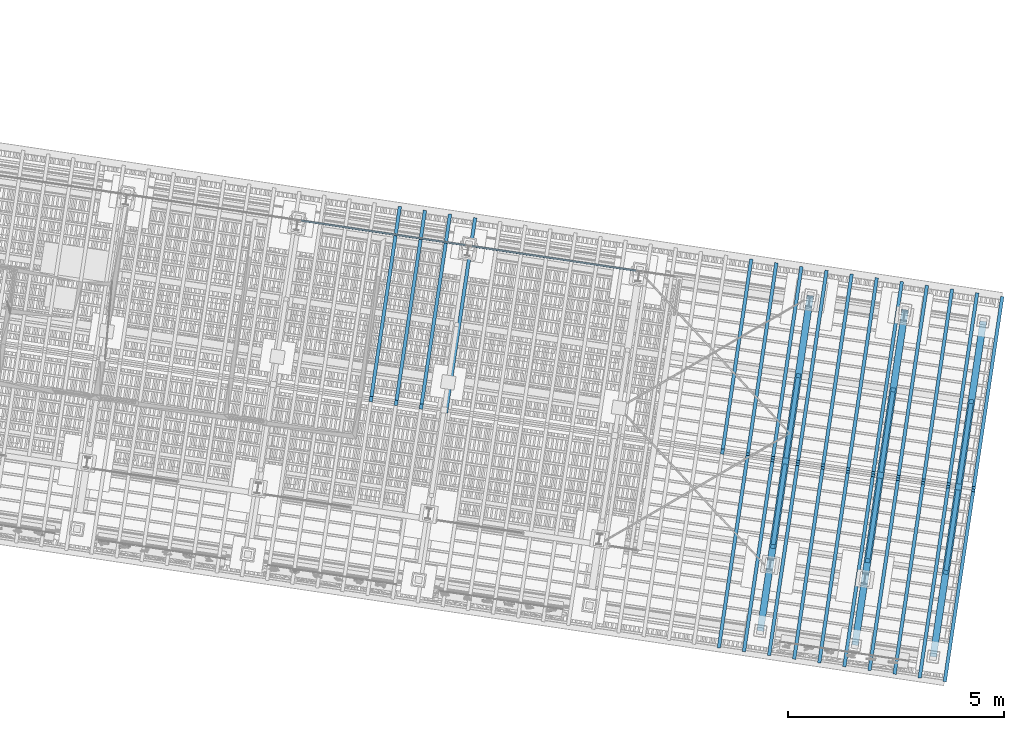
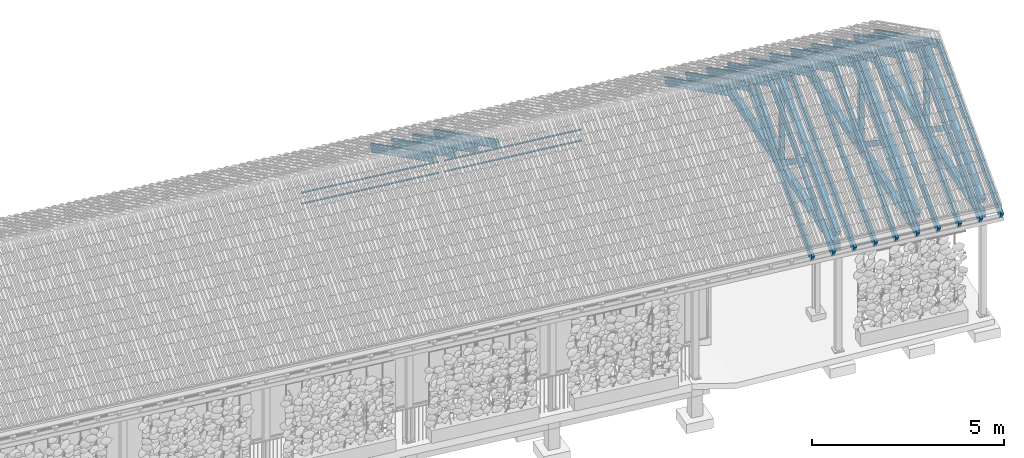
# One storey, part 104 of 131: 44 members, 3 beams, 1 element without a shape of its own.
"""IFC4 building model written with IfcOpenShell, lengths in metres."""

from ifc_helpers import new_model, si_unit, direction, frame, origin_with_axes, place, context, subcontext, project, spatial, rectangle, extrude, material, material_profile, profile_set, profile_usage, type_object, element, aggregate, save


model = new_model("IFC4")

# Units and contexts
model_context = context("Model", 3, precision=1e-05, world=origin_with_axes(), true_north=direction((0.0, 1.0)))
body_context = subcontext(model_context, "Body", "Model", "MODEL_VIEW")
ifc_project = project(units=[si_unit("AREAUNIT", "SQUARE_METRE"), si_unit("VOLUMEUNIT", "CUBIC_METRE"), si_unit("LENGTHUNIT", "METRE")], contexts=[model_context])

# Site, building, storey
site_placement = place(None, origin_with_axes())
site = spatial("IfcSite", under=ifc_project, at=site_placement, Name="Lares · Rua das Mercês · artigo 4771")
building_placement = place(site_placement, frame((15.0, 9.7, 14.65), z_axis=(0.0, 0.0, 1.0), x_axis=(0.989015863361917, -0.147809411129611, 0.0)))
building = spatial("IfcBuilding", under=site, at=building_placement, Name="Casa Sobreposta")
storey_placement = place(building_placement, origin_with_axes())
storey = spatial("IfcBuildingStorey", under=building, at=storey_placement, Name="00 · Habitação e estacionamento", Elevation=14.65)

# Members
ifc_material_1 = material(Name="Aço pintado / Stahl lackiert", Category="steel")
ifc_material_profile_1 = material_profile(ifc_material_1, rectangle(XDim=0.035, YDim=0.035))
ifc_profile_set_1 = profile_set([ifc_material_profile_1], Name="R0.035")
ifc_profile_usage_1 = profile_usage(ifc_profile_set_1)
member_type_1 = type_object("IfcMemberType", Name="R0.035 / steel", PredefinedType="NOTDEFINED", material=ifc_profile_set_1)
member_1_placement = place(storey_placement, frame((16.08, 6.4, 2.35), z_axis=(1.0, 0.0, 0.0), x_axis=(0.0, -1.0, 0.0)))
element("IfcMember", 1, at=member_1_placement, inside=storey, type_object=member_type_1, material=ifc_profile_usage_1, Name="Rasgo norte 5 · travessa", context=body_context, shape_type="SweptSolid", body=[
    extrude(rectangle(XDim=0.035, YDim=0.035), origin_with_axes(), (0.0, 0.0, 1.0), 3.84),
])
ifc_profile_usage_2 = profile_usage(ifc_profile_set_1)
member_2_placement = place(storey_placement, frame((16.08, 6.4, 2.7), z_axis=(1.0, 0.0, 0.0), x_axis=(0.0, -1.0, 0.0)))
element("IfcMember", 2, at=member_2_placement, inside=storey, type_object=member_type_1, material=ifc_profile_usage_2, Name="Rasgo norte 5 · travessa", context=body_context, shape_type="SweptSolid", body=[
    extrude(rectangle(XDim=0.035, YDim=0.035), origin_with_axes(), (0.0, 0.0, 1.0), 3.84),
])
ifc_profile_usage_3 = profile_usage(ifc_profile_set_1)
member_3_placement = place(storey_placement, frame((20.08, 6.4, 2.35), z_axis=(1.0, 0.0, 0.0), x_axis=(0.0, -1.0, 0.0)))
element("IfcMember", 3, at=member_3_placement, inside=storey, type_object=member_type_1, material=ifc_profile_usage_3, Name="Rasgo norte 6 · travessa", context=body_context, shape_type="SweptSolid", body=[
    extrude(rectangle(XDim=0.035, YDim=0.035), origin_with_axes(), (0.0, 0.0, 1.0), 3.84),
])
ifc_profile_usage_4 = profile_usage(ifc_profile_set_1)
member_4_placement = place(storey_placement, frame((20.08, 6.4, 2.7), z_axis=(1.0, 0.0, 0.0), x_axis=(0.0, -1.0, 0.0)))
element("IfcMember", 4, at=member_4_placement, inside=storey, type_object=member_type_1, material=ifc_profile_usage_4, Name="Rasgo norte 6 · travessa", context=body_context, shape_type="SweptSolid", body=[
    extrude(rectangle(XDim=0.035, YDim=0.035), origin_with_axes(), (0.0, 0.0, 1.0), 3.84),
])

# Roof, beams, members
ifc_material_2 = material(Name="Madeira / Bauholz", Category="wood")
roof_placement = place(storey_placement, origin_with_axes())
roof = element("IfcRoof", 5, at=roof_placement, inside=storey, material=ifc_material_2, Name="Cobertura de telha · duas águas 30 graus", PredefinedType="GABLE_ROOF")
ifc_material_profile_2 = material_profile(ifc_material_2, rectangle(XDim=0.16, YDim=0.24))
ifc_profile_set_2 = profile_set([ifc_material_profile_2], Name="TIMBER0.160x0.240")
ifc_profile_usage_5 = profile_usage(ifc_profile_set_2)
beam_type = type_object("IfcBeamType", Name="TIMBER0.160x0.240 / timber", PredefinedType="NOTDEFINED", material=ifc_profile_set_2)
beam_1_placement = place(roof_placement, frame((28.0, -1.43, 3.02), z_axis=(0.0, 1.0, 0.0), x_axis=(1.0, 0.0, 0.0)))
beam_1 = element("IfcBeam", 6, at=beam_1_placement, type_object=beam_type, material=ifc_profile_usage_5, Name="Tesoura · tirante inferior", context=body_context, shape_type="SweptSolid", body=[
    extrude(rectangle(XDim=0.16, YDim=0.24), origin_with_axes(), (0.0, 0.0, 1.0), 7.86),
])
ifc_profile_usage_6 = profile_usage(ifc_profile_set_2)
beam_2_placement = place(roof_placement, frame((30.22, -1.43, 3.02), z_axis=(0.0, 1.0, 0.0), x_axis=(1.0, 0.0, 0.0)))
beam_2 = element("IfcBeam", 7, at=beam_2_placement, type_object=beam_type, material=ifc_profile_usage_6, Name="Tesoura · tirante inferior", context=body_context, shape_type="SweptSolid", body=[
    extrude(rectangle(XDim=0.16, YDim=0.24), origin_with_axes(), (0.0, 0.0, 1.0), 7.86),
])
ifc_profile_usage_7 = profile_usage(ifc_profile_set_2)
beam_3_placement = place(roof_placement, frame((32.05, -1.43, 3.02), z_axis=(0.0, 1.0, 0.0), x_axis=(1.0, 0.0, 0.0)))
beam_3 = element("IfcBeam", 8, at=beam_3_placement, type_object=beam_type, material=ifc_profile_usage_7, Name="Tesoura · tirante inferior", context=body_context, shape_type="SweptSolid", body=[
    extrude(rectangle(XDim=0.16, YDim=0.24), origin_with_axes(), (0.0, 0.0, 1.0), 7.86),
])
ifc_material_profile_3 = material_profile(ifc_material_2, rectangle(XDim=0.16, YDim=0.24))
ifc_profile_set_3 = profile_set([ifc_material_profile_3], Name="TIMBER0.160x0.240")
ifc_profile_usage_8 = profile_usage(ifc_profile_set_3)
member_type_2 = type_object("IfcMemberType", Name="TIMBER0.160x0.240 / timber", PredefinedType="NOTDEFINED", material=ifc_profile_set_3)
member_5_placement = place(roof_placement, frame((28.0, -1.43, 3.44635462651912), z_axis=(0.0, 0.866025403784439, 0.5), x_axis=(1.0, 0.0, 0.0)))
member_5 = element("IfcMember", 9, at=member_5_placement, type_object=member_type_2, material=ifc_profile_usage_8, Name="Tesoura · perna", context=body_context, shape_type="SweptSolid", body=[
    extrude(rectangle(XDim=0.16, YDim=0.24), origin_with_axes(), (0.0, 0.0, 1.0), 4.59570814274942),
])
ifc_profile_usage_9 = profile_usage(ifc_profile_set_3)
member_6_placement = place(roof_placement, frame((28.0, 2.55, 5.74420869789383), z_axis=(0.0, 0.866025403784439, -0.5), x_axis=(1.0, 0.0, 0.0)))
member_6 = element("IfcMember", 10, at=member_6_placement, type_object=member_type_2, material=ifc_profile_usage_9, Name="Tesoura · perna", context=body_context, shape_type="SweptSolid", body=[
    extrude(rectangle(XDim=0.16, YDim=0.24), origin_with_axes(), (0.0, 0.0, 1.0), 4.4802380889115),
])
ifc_profile_usage_10 = profile_usage(ifc_profile_set_3)
member_7_placement = place(roof_placement, frame((30.22, -1.43, 3.44635462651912), z_axis=(0.0, 0.866025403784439, 0.5), x_axis=(1.0, 0.0, 0.0)))
member_7 = element("IfcMember", 11, at=member_7_placement, type_object=member_type_2, material=ifc_profile_usage_10, Name="Tesoura · perna", context=body_context, shape_type="SweptSolid", body=[
    extrude(rectangle(XDim=0.16, YDim=0.24), origin_with_axes(), (0.0, 0.0, 1.0), 4.59570814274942),
])
ifc_profile_usage_11 = profile_usage(ifc_profile_set_3)
member_8_placement = place(roof_placement, frame((30.22, 2.55, 5.74420869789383), z_axis=(0.0, 0.866025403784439, -0.5), x_axis=(1.0, 0.0, 0.0)))
member_8 = element("IfcMember", 12, at=member_8_placement, type_object=member_type_2, material=ifc_profile_usage_11, Name="Tesoura · perna", context=body_context, shape_type="SweptSolid", body=[
    extrude(rectangle(XDim=0.16, YDim=0.24), origin_with_axes(), (0.0, 0.0, 1.0), 4.4802380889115),
])
ifc_profile_usage_12 = profile_usage(ifc_profile_set_3)
member_9_placement = place(roof_placement, frame((32.05, -1.43, 3.44635462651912), z_axis=(0.0, 0.866025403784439, 0.5), x_axis=(1.0, 0.0, 0.0)))
member_9 = element("IfcMember", 13, at=member_9_placement, type_object=member_type_2, material=ifc_profile_usage_12, Name="Tesoura · perna", context=body_context, shape_type="SweptSolid", body=[
    extrude(rectangle(XDim=0.16, YDim=0.24), origin_with_axes(), (0.0, 0.0, 1.0), 4.59570814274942),
])
ifc_profile_usage_13 = profile_usage(ifc_profile_set_3)
member_10_placement = place(roof_placement, frame((32.05, 2.55, 5.74420869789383), z_axis=(0.0, 0.866025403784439, -0.5), x_axis=(1.0, 0.0, 0.0)))
member_10 = element("IfcMember", 14, at=member_10_placement, type_object=member_type_2, material=ifc_profile_usage_13, Name="Tesoura · perna", context=body_context, shape_type="SweptSolid", body=[
    extrude(rectangle(XDim=0.16, YDim=0.24), origin_with_axes(), (0.0, 0.0, 1.0), 4.4802380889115),
])
ifc_material_profile_4 = material_profile(ifc_material_2, rectangle(XDim=0.14, YDim=0.14))
ifc_profile_set_4 = profile_set([ifc_material_profile_4], Name="TIMBER0.140x0.140")
ifc_profile_usage_14 = profile_usage(ifc_profile_set_4)
member_type_3 = type_object("IfcMemberType", Name="TIMBER0.140x0.140 / timber", PredefinedType="NOTDEFINED", material=ifc_profile_set_4)
member_11_placement = place(roof_placement, frame((28.0, 2.55, 3.02), z_axis=(0.0, 0.0, 1.0), x_axis=(1.0, 0.0, 0.0)))
member_11 = element("IfcMember", 15, at=member_11_placement, type_object=member_type_3, material=ifc_profile_usage_14, Name="Tesoura · pendural", context=body_context, shape_type="SweptSolid", body=[
    extrude(rectangle(XDim=0.14, YDim=0.14), origin_with_axes(), (0.0, 0.0, 1.0), 2.72420869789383),
])
ifc_profile_usage_15 = profile_usage(ifc_profile_set_4)
member_12_placement = place(roof_placement, frame((30.22, 2.55, 3.02), z_axis=(0.0, 0.0, 1.0), x_axis=(1.0, 0.0, 0.0)))
member_12 = element("IfcMember", 16, at=member_12_placement, type_object=member_type_3, material=ifc_profile_usage_15, Name="Tesoura · pendural", context=body_context, shape_type="SweptSolid", body=[
    extrude(rectangle(XDim=0.14, YDim=0.14), origin_with_axes(), (0.0, 0.0, 1.0), 2.72420869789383),
])
ifc_profile_usage_16 = profile_usage(ifc_profile_set_4)
member_13_placement = place(roof_placement, frame((32.05, 2.55, 3.02), z_axis=(0.0, 0.0, 1.0), x_axis=(1.0, 0.0, 0.0)))
member_13 = element("IfcMember", 17, at=member_13_placement, type_object=member_type_3, material=ifc_profile_usage_16, Name="Tesoura · pendural", context=body_context, shape_type="SweptSolid", body=[
    extrude(rectangle(XDim=0.14, YDim=0.14), origin_with_axes(), (0.0, 0.0, 1.0), 2.72420869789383),
])
ifc_material_profile_5 = material_profile(ifc_material_2, rectangle(XDim=0.1, YDim=0.16))
ifc_profile_set_5 = profile_set([ifc_material_profile_5], Name="TIMBER0.100x0.160")
ifc_profile_usage_17 = profile_usage(ifc_profile_set_5)
member_type_4 = type_object("IfcMemberType", Name="TIMBER0.100x0.160 / timber", PredefinedType="NOTDEFINED", material=ifc_profile_set_5)
member_14_placement = place(roof_placement, frame((28.0, 2.55, 3.1), z_axis=(0.0, -0.816439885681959, 0.577430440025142), x_axis=(-1.0, 0.0, 0.0)))
member_14 = element("IfcMember", 18, at=member_14_placement, type_object=member_type_4, material=ifc_profile_usage_17, Name="Tesoura · escora", context=body_context, shape_type="SweptSolid", body=[
    extrude(rectangle(XDim=0.1, YDim=0.16), origin_with_axes(), (0.0, 0.0, 1.0), 2.44965984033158),
])
ifc_profile_usage_18 = profile_usage(ifc_profile_set_5)
member_15_placement = place(roof_placement, frame((28.0, 2.55, 3.1), z_axis=(0.0, 0.816439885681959, 0.577430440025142), x_axis=(1.0, 0.0, 0.0)))
member_15 = element("IfcMember", 19, at=member_15_placement, type_object=member_type_4, material=ifc_profile_usage_18, Name="Tesoura · escora", context=body_context, shape_type="SweptSolid", body=[
    extrude(rectangle(XDim=0.1, YDim=0.16), origin_with_axes(), (0.0, 0.0, 1.0), 2.44965984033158),
])
ifc_profile_usage_19 = profile_usage(ifc_profile_set_5)
member_16_placement = place(roof_placement, frame((30.22, 2.55, 3.1), z_axis=(0.0, -0.816439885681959, 0.577430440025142), x_axis=(-1.0, 0.0, 0.0)))
member_16 = element("IfcMember", 20, at=member_16_placement, type_object=member_type_4, material=ifc_profile_usage_19, Name="Tesoura · escora", context=body_context, shape_type="SweptSolid", body=[
    extrude(rectangle(XDim=0.1, YDim=0.16), origin_with_axes(), (0.0, 0.0, 1.0), 2.44965984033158),
])
ifc_profile_usage_20 = profile_usage(ifc_profile_set_5)
member_17_placement = place(roof_placement, frame((30.22, 2.55, 3.1), z_axis=(0.0, 0.816439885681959, 0.577430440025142), x_axis=(1.0, 0.0, 0.0)))
member_17 = element("IfcMember", 21, at=member_17_placement, type_object=member_type_4, material=ifc_profile_usage_20, Name="Tesoura · escora", context=body_context, shape_type="SweptSolid", body=[
    extrude(rectangle(XDim=0.1, YDim=0.16), origin_with_axes(), (0.0, 0.0, 1.0), 2.44965984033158),
])
ifc_profile_usage_21 = profile_usage(ifc_profile_set_5)
member_18_placement = place(roof_placement, frame((32.05, 2.55, 3.1), z_axis=(0.0, -0.816439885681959, 0.577430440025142), x_axis=(-1.0, 0.0, 0.0)))
member_18 = element("IfcMember", 22, at=member_18_placement, type_object=member_type_4, material=ifc_profile_usage_21, Name="Tesoura · escora", context=body_context, shape_type="SweptSolid", body=[
    extrude(rectangle(XDim=0.1, YDim=0.16), origin_with_axes(), (0.0, 0.0, 1.0), 2.44965984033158),
])
ifc_profile_usage_22 = profile_usage(ifc_profile_set_5)
member_19_placement = place(roof_placement, frame((32.05, 2.55, 3.1), z_axis=(0.0, 0.816439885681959, 0.577430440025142), x_axis=(1.0, 0.0, 0.0)))
member_19 = element("IfcMember", 23, at=member_19_placement, type_object=member_type_4, material=ifc_profile_usage_22, Name="Tesoura · escora", context=body_context, shape_type="SweptSolid", body=[
    extrude(rectangle(XDim=0.1, YDim=0.16), origin_with_axes(), (0.0, 0.0, 1.0), 2.44965984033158),
])
ifc_material_profile_6 = material_profile(ifc_material_2, rectangle(XDim=0.08, YDim=0.24))
ifc_profile_set_6 = profile_set([ifc_material_profile_6], Name="TIMBER0.080x0.240")
ifc_profile_usage_23 = profile_usage(ifc_profile_set_6)
member_type_5 = type_object("IfcMemberType", Name="TIMBER0.080x0.240 / timber", PredefinedType="NOTDEFINED", material=ifc_profile_set_6)
member_20_placement = place(roof_placement, frame((18.2909090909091, 2.55, 5.75020869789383), z_axis=(0.0, 0.866025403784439, -0.5), x_axis=(1.0, 0.0, 0.0)))
member_20 = element("IfcMember", 24, at=member_20_placement, type_object=member_type_5, material=ifc_profile_usage_23, Name="Cobertura · caibro", context=body_context, shape_type="SweptSolid", body=[
    extrude(rectangle(XDim=0.08, YDim=0.24), origin_with_axes(), (0.0, 0.0, 1.0), 5.13841739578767),
])
ifc_profile_usage_24 = profile_usage(ifc_profile_set_6)
member_21_placement = place(roof_placement, frame((18.8787878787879, 2.55, 5.75020869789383), z_axis=(0.0, 0.866025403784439, -0.5), x_axis=(1.0, 0.0, 0.0)))
member_21 = element("IfcMember", 25, at=member_21_placement, type_object=member_type_5, material=ifc_profile_usage_24, Name="Cobertura · caibro", context=body_context, shape_type="SweptSolid", body=[
    extrude(rectangle(XDim=0.08, YDim=0.24), origin_with_axes(), (0.0, 0.0, 1.0), 5.13841739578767),
])
ifc_profile_usage_25 = profile_usage(ifc_profile_set_6)
member_22_placement = place(roof_placement, frame((19.4666666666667, 2.55, 5.75020869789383), z_axis=(0.0, 0.866025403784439, -0.5), x_axis=(1.0, 0.0, 0.0)))
member_22 = element("IfcMember", 26, at=member_22_placement, type_object=member_type_5, material=ifc_profile_usage_25, Name="Cobertura · caibro", context=body_context, shape_type="SweptSolid", body=[
    extrude(rectangle(XDim=0.08, YDim=0.24), origin_with_axes(), (0.0, 0.0, 1.0), 5.13841739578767),
])
ifc_profile_usage_26 = profile_usage(ifc_profile_set_6)
member_23_placement = place(roof_placement, frame((20.0545454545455, 2.55, 5.75020869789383), z_axis=(0.0, 0.866025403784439, -0.5), x_axis=(1.0, 0.0, 0.0)))
member_23 = element("IfcMember", 27, at=member_23_placement, type_object=member_type_5, material=ifc_profile_usage_26, Name="Cobertura · caibro", context=body_context, shape_type="SweptSolid", body=[
    extrude(rectangle(XDim=0.08, YDim=0.24), origin_with_axes(), (0.0, 0.0, 1.0), 5.13841739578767),
])
ifc_profile_usage_27 = profile_usage(ifc_profile_set_6)
member_24_placement = place(roof_placement, frame((26.5212121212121, 2.55, 5.75020869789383), z_axis=(0.0, 0.866025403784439, -0.5), x_axis=(1.0, 0.0, 0.0)))
member_24 = element("IfcMember", 28, at=member_24_placement, type_object=member_type_5, material=ifc_profile_usage_27, Name="Cobertura · caibro", context=body_context, shape_type="SweptSolid", body=[
    extrude(rectangle(XDim=0.08, YDim=0.24), origin_with_axes(), (0.0, 0.0, 1.0), 5.13841739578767),
])
ifc_profile_usage_28 = profile_usage(ifc_profile_set_6)
member_25_placement = place(roof_placement, frame((27.1090909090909, -1.9, 3.181), z_axis=(0.0, 0.866025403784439, 0.5), x_axis=(1.0, 0.0, 0.0)))
member_25 = element("IfcMember", 29, at=member_25_placement, type_object=member_type_5, material=ifc_profile_usage_28, Name="Cobertura · caibro", context=body_context, shape_type="SweptSolid", body=[
    extrude(rectangle(XDim=0.08, YDim=0.24), origin_with_axes(), (0.0, 0.0, 1.0), 5.13841739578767),
])
ifc_profile_usage_29 = profile_usage(ifc_profile_set_6)
member_26_placement = place(roof_placement, frame((27.1090909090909, 2.55, 5.75020869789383), z_axis=(0.0, 0.866025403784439, -0.5), x_axis=(1.0, 0.0, 0.0)))
member_26 = element("IfcMember", 30, at=member_26_placement, type_object=member_type_5, material=ifc_profile_usage_29, Name="Cobertura · caibro", context=body_context, shape_type="SweptSolid", body=[
    extrude(rectangle(XDim=0.08, YDim=0.24), origin_with_axes(), (0.0, 0.0, 1.0), 5.13841739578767),
])
ifc_profile_usage_30 = profile_usage(ifc_profile_set_6)
member_27_placement = place(roof_placement, frame((27.6969696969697, -1.9, 3.181), z_axis=(0.0, 0.866025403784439, 0.5), x_axis=(1.0, 0.0, 0.0)))
member_27 = element("IfcMember", 31, at=member_27_placement, type_object=member_type_5, material=ifc_profile_usage_30, Name="Cobertura · caibro", context=body_context, shape_type="SweptSolid", body=[
    extrude(rectangle(XDim=0.08, YDim=0.24), origin_with_axes(), (0.0, 0.0, 1.0), 5.13841739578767),
])
ifc_profile_usage_31 = profile_usage(ifc_profile_set_6)
member_28_placement = place(roof_placement, frame((27.6969696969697, 2.55, 5.75020869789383), z_axis=(0.0, 0.866025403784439, -0.5), x_axis=(1.0, 0.0, 0.0)))
member_28 = element("IfcMember", 32, at=member_28_placement, type_object=member_type_5, material=ifc_profile_usage_31, Name="Cobertura · caibro", context=body_context, shape_type="SweptSolid", body=[
    extrude(rectangle(XDim=0.08, YDim=0.24), origin_with_axes(), (0.0, 0.0, 1.0), 5.13841739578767),
])
ifc_profile_usage_32 = profile_usage(ifc_profile_set_6)
member_29_placement = place(roof_placement, frame((28.2848484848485, -1.9, 3.181), z_axis=(0.0, 0.866025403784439, 0.5), x_axis=(1.0, 0.0, 0.0)))
member_29 = element("IfcMember", 33, at=member_29_placement, type_object=member_type_5, material=ifc_profile_usage_32, Name="Cobertura · caibro", context=body_context, shape_type="SweptSolid", body=[
    extrude(rectangle(XDim=0.08, YDim=0.24), origin_with_axes(), (0.0, 0.0, 1.0), 5.13841739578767),
])
ifc_profile_usage_33 = profile_usage(ifc_profile_set_6)
member_30_placement = place(roof_placement, frame((28.2848484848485, 2.55, 5.75020869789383), z_axis=(0.0, 0.866025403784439, -0.5), x_axis=(1.0, 0.0, 0.0)))
member_30 = element("IfcMember", 34, at=member_30_placement, type_object=member_type_5, material=ifc_profile_usage_33, Name="Cobertura · caibro", context=body_context, shape_type="SweptSolid", body=[
    extrude(rectangle(XDim=0.08, YDim=0.24), origin_with_axes(), (0.0, 0.0, 1.0), 5.13841739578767),
])
ifc_profile_usage_34 = profile_usage(ifc_profile_set_6)
member_31_placement = place(roof_placement, frame((28.8727272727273, -1.9, 3.181), z_axis=(0.0, 0.866025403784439, 0.5), x_axis=(1.0, 0.0, 0.0)))
member_31 = element("IfcMember", 35, at=member_31_placement, type_object=member_type_5, material=ifc_profile_usage_34, Name="Cobertura · caibro", context=body_context, shape_type="SweptSolid", body=[
    extrude(rectangle(XDim=0.08, YDim=0.24), origin_with_axes(), (0.0, 0.0, 1.0), 5.13841739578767),
])
ifc_profile_usage_35 = profile_usage(ifc_profile_set_6)
member_32_placement = place(roof_placement, frame((28.8727272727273, 2.55, 5.75020869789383), z_axis=(0.0, 0.866025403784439, -0.5), x_axis=(1.0, 0.0, 0.0)))
member_32 = element("IfcMember", 36, at=member_32_placement, type_object=member_type_5, material=ifc_profile_usage_35, Name="Cobertura · caibro", context=body_context, shape_type="SweptSolid", body=[
    extrude(rectangle(XDim=0.08, YDim=0.24), origin_with_axes(), (0.0, 0.0, 1.0), 5.13841739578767),
])
ifc_profile_usage_36 = profile_usage(ifc_profile_set_6)
member_33_placement = place(roof_placement, frame((29.4606060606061, -1.9, 3.181), z_axis=(0.0, 0.866025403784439, 0.5), x_axis=(1.0, 0.0, 0.0)))
member_33 = element("IfcMember", 37, at=member_33_placement, type_object=member_type_5, material=ifc_profile_usage_36, Name="Cobertura · caibro", context=body_context, shape_type="SweptSolid", body=[
    extrude(rectangle(XDim=0.08, YDim=0.24), origin_with_axes(), (0.0, 0.0, 1.0), 5.13841739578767),
])
ifc_profile_usage_37 = profile_usage(ifc_profile_set_6)
member_34_placement = place(roof_placement, frame((29.4606060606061, 2.55, 5.75020869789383), z_axis=(0.0, 0.866025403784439, -0.5), x_axis=(1.0, 0.0, 0.0)))
member_34 = element("IfcMember", 38, at=member_34_placement, type_object=member_type_5, material=ifc_profile_usage_37, Name="Cobertura · caibro", context=body_context, shape_type="SweptSolid", body=[
    extrude(rectangle(XDim=0.08, YDim=0.24), origin_with_axes(), (0.0, 0.0, 1.0), 5.13841739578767),
])
ifc_profile_usage_38 = profile_usage(ifc_profile_set_6)
member_35_placement = place(roof_placement, frame((30.0484848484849, -1.9, 3.181), z_axis=(0.0, 0.866025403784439, 0.5), x_axis=(1.0, 0.0, 0.0)))
member_35 = element("IfcMember", 39, at=member_35_placement, type_object=member_type_5, material=ifc_profile_usage_38, Name="Cobertura · caibro", context=body_context, shape_type="SweptSolid", body=[
    extrude(rectangle(XDim=0.08, YDim=0.24), origin_with_axes(), (0.0, 0.0, 1.0), 5.13841739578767),
])
ifc_profile_usage_39 = profile_usage(ifc_profile_set_6)
member_36_placement = place(roof_placement, frame((30.0484848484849, 2.55, 5.75020869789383), z_axis=(0.0, 0.866025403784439, -0.5), x_axis=(1.0, 0.0, 0.0)))
member_36 = element("IfcMember", 40, at=member_36_placement, type_object=member_type_5, material=ifc_profile_usage_39, Name="Cobertura · caibro", context=body_context, shape_type="SweptSolid", body=[
    extrude(rectangle(XDim=0.08, YDim=0.24), origin_with_axes(), (0.0, 0.0, 1.0), 5.13841739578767),
])
ifc_profile_usage_40 = profile_usage(ifc_profile_set_6)
member_37_placement = place(roof_placement, frame((30.6363636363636, -1.9, 3.181), z_axis=(0.0, 0.866025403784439, 0.5), x_axis=(1.0, 0.0, 0.0)))
member_37 = element("IfcMember", 41, at=member_37_placement, type_object=member_type_5, material=ifc_profile_usage_40, Name="Cobertura · caibro", context=body_context, shape_type="SweptSolid", body=[
    extrude(rectangle(XDim=0.08, YDim=0.24), origin_with_axes(), (0.0, 0.0, 1.0), 5.13841739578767),
])
ifc_profile_usage_41 = profile_usage(ifc_profile_set_6)
member_38_placement = place(roof_placement, frame((30.6363636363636, 2.55, 5.75020869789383), z_axis=(0.0, 0.866025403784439, -0.5), x_axis=(1.0, 0.0, 0.0)))
member_38 = element("IfcMember", 42, at=member_38_placement, type_object=member_type_5, material=ifc_profile_usage_41, Name="Cobertura · caibro", context=body_context, shape_type="SweptSolid", body=[
    extrude(rectangle(XDim=0.08, YDim=0.24), origin_with_axes(), (0.0, 0.0, 1.0), 5.13841739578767),
])
ifc_profile_usage_42 = profile_usage(ifc_profile_set_6)
member_39_placement = place(roof_placement, frame((31.2242424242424, -1.9, 3.181), z_axis=(0.0, 0.866025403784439, 0.5), x_axis=(1.0, 0.0, 0.0)))
member_39 = element("IfcMember", 43, at=member_39_placement, type_object=member_type_5, material=ifc_profile_usage_42, Name="Cobertura · caibro", context=body_context, shape_type="SweptSolid", body=[
    extrude(rectangle(XDim=0.08, YDim=0.24), origin_with_axes(), (0.0, 0.0, 1.0), 5.13841739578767),
])
ifc_profile_usage_43 = profile_usage(ifc_profile_set_6)
member_40_placement = place(roof_placement, frame((31.2242424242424, 2.55, 5.75020869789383), z_axis=(0.0, 0.866025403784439, -0.5), x_axis=(1.0, 0.0, 0.0)))
member_40 = element("IfcMember", 44, at=member_40_placement, type_object=member_type_5, material=ifc_profile_usage_43, Name="Cobertura · caibro", context=body_context, shape_type="SweptSolid", body=[
    extrude(rectangle(XDim=0.08, YDim=0.24), origin_with_axes(), (0.0, 0.0, 1.0), 5.13841739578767),
])
ifc_profile_usage_44 = profile_usage(ifc_profile_set_6)
member_41_placement = place(roof_placement, frame((31.8121212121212, -1.9, 3.181), z_axis=(0.0, 0.866025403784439, 0.5), x_axis=(1.0, 0.0, 0.0)))
member_41 = element("IfcMember", 45, at=member_41_placement, type_object=member_type_5, material=ifc_profile_usage_44, Name="Cobertura · caibro", context=body_context, shape_type="SweptSolid", body=[
    extrude(rectangle(XDim=0.08, YDim=0.24), origin_with_axes(), (0.0, 0.0, 1.0), 5.13841739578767),
])
ifc_profile_usage_45 = profile_usage(ifc_profile_set_6)
member_42_placement = place(roof_placement, frame((31.8121212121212, 2.55, 5.75020869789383), z_axis=(0.0, 0.866025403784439, -0.5), x_axis=(1.0, 0.0, 0.0)))
member_42 = element("IfcMember", 46, at=member_42_placement, type_object=member_type_5, material=ifc_profile_usage_45, Name="Cobertura · caibro", context=body_context, shape_type="SweptSolid", body=[
    extrude(rectangle(XDim=0.08, YDim=0.24), origin_with_axes(), (0.0, 0.0, 1.0), 5.13841739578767),
])
ifc_profile_usage_46 = profile_usage(ifc_profile_set_6)
member_43_placement = place(roof_placement, frame((32.4, -1.9, 3.181), z_axis=(0.0, 0.866025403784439, 0.5), x_axis=(1.0, 0.0, 0.0)))
member_43 = element("IfcMember", 47, at=member_43_placement, type_object=member_type_5, material=ifc_profile_usage_46, Name="Cobertura · caibro", context=body_context, shape_type="SweptSolid", body=[
    extrude(rectangle(XDim=0.08, YDim=0.24), origin_with_axes(), (0.0, 0.0, 1.0), 5.13841739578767),
])
ifc_profile_usage_47 = profile_usage(ifc_profile_set_6)
member_44_placement = place(roof_placement, frame((32.4, 2.55, 5.75020869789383), z_axis=(0.0, 0.866025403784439, -0.5), x_axis=(1.0, 0.0, 0.0)))
member_44 = element("IfcMember", 48, at=member_44_placement, type_object=member_type_5, material=ifc_profile_usage_47, Name="Cobertura · caibro", context=body_context, shape_type="SweptSolid", body=[
    extrude(rectangle(XDim=0.08, YDim=0.24), origin_with_axes(), (0.0, 0.0, 1.0), 5.13841739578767),
])
aggregate(roof, [beam_1, member_5, member_6, member_11, member_14, member_15, beam_2, member_7, member_8, member_12, member_16, member_17, beam_3, member_9, member_10, member_13, member_18, member_19, member_20, member_21, member_22, member_23, member_24, member_25, member_26, member_27, member_28, member_29, member_30, member_31, member_32, member_33, member_34, member_35, member_36, member_37, member_38, member_39, member_40, member_41, member_42, member_43, member_44])

save(model, "model.ifc")
